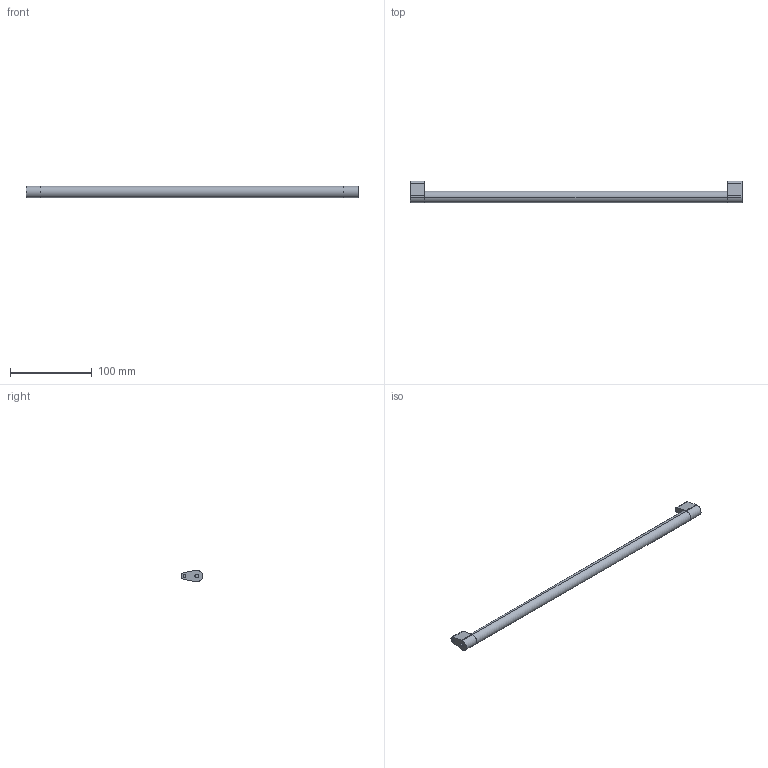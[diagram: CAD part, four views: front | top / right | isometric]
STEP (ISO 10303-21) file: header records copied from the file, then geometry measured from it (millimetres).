
FILE_DESCRIPTION (( 'STEP AP214' ), '1' );
FILE_NAME ('_Synchronisationseinheit DWD XP KAB500_S16.step', '2010-07-08T13:58:17', ( 'grass' ), ( '' ), 'SwSTEP 2.0', 'SolidWorks 2010', '' );
FILE_SCHEMA (( 'AUTOMOTIVE_DESIGN' ));
Length unit declared in the file: millimetre
Products named in the file (1): _Synchronisationseinheit DWD XP KAB500_S16
Bounding box: 407 x 26.5 x 14 mm (x, y, z)
Volume: 66339.6 mm3; surface area: 20747.8 mm2
Topology: 3 solids, 3 shells, 36 faces, 78 edges, 52 vertices
Faces by surface type: cylinder 18, plane 18
Entity records: 1050 total; most frequent: DIRECTION 188, CARTESIAN_POINT 167, ORIENTED_EDGE 156, EDGE_CURVE 78, AXIS2_PLACEMENT_3D 73, VERTEX_POINT 52, LINE 42, VECTOR 42
